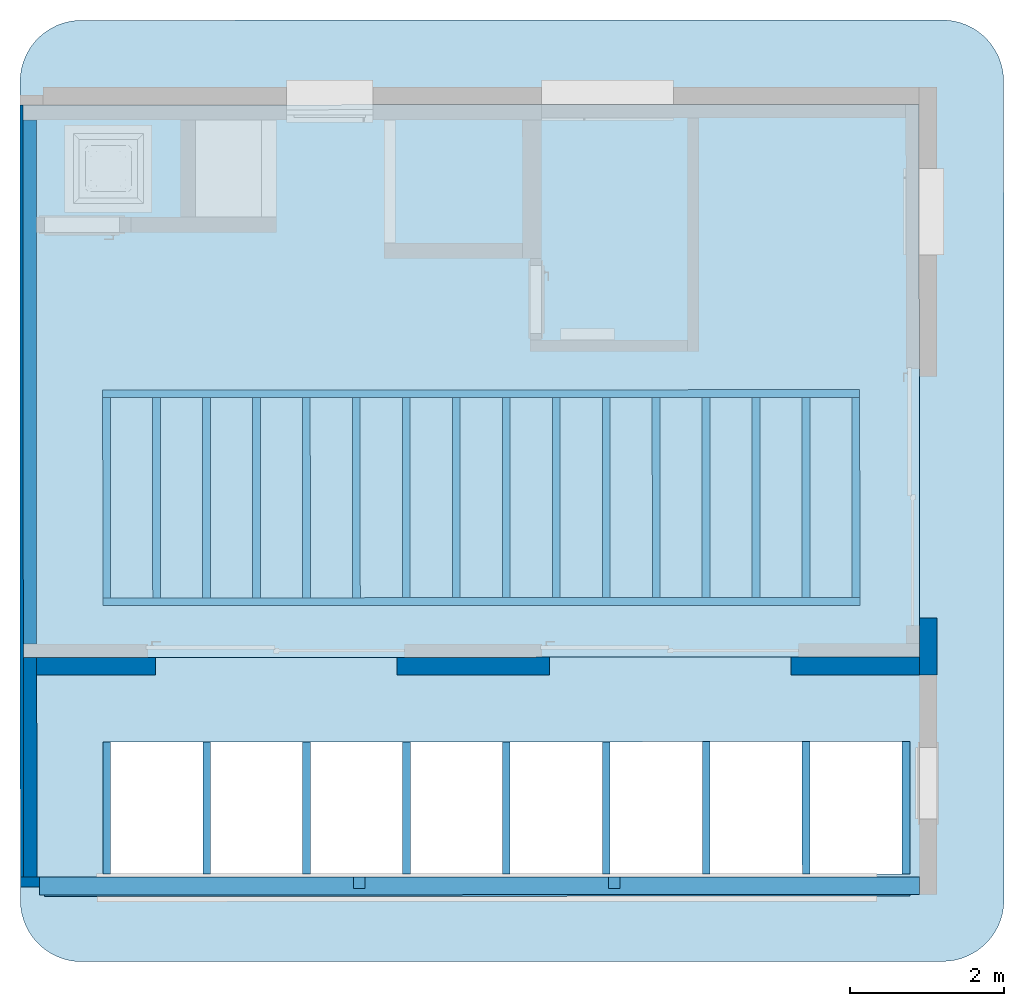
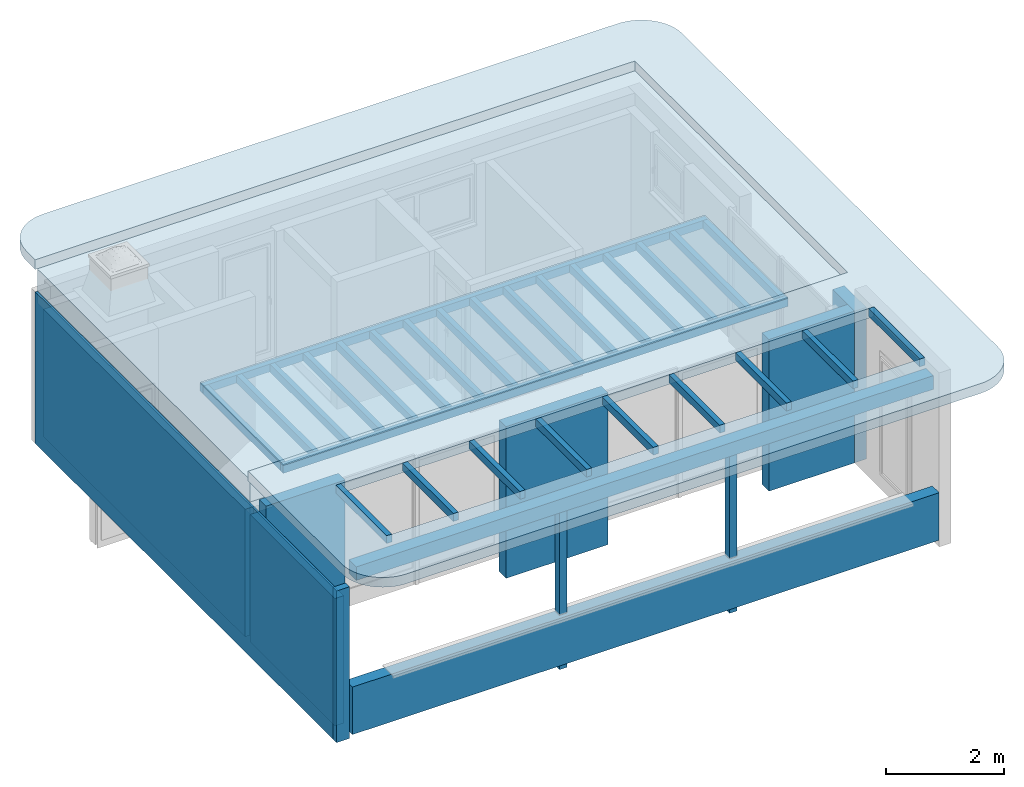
# One storey, part 1 of 7: 28 beams, 9 walls, 4 slabs, 2 piles, 2 openings.
"""IFC2X3 building model written with IfcOpenShell, lengths in metres."""

from ifc_helpers import new_model, entity, si_unit, converted_unit, derived_unit, direction, frame, frame_2d, origin, origin_with_axes, place, context, subcontext, project, spatial, polyline, rectangle, outline, extrude, faceted_brep, material, layer, layer_set, layer_usage, element, save


model = new_model("IFC2X3")

# Units and contexts
model_context = context("Model", 3, precision=1e-05, world=origin(), true_north=direction((0.772621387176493, -0.634867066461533)))
body_context = subcontext(model_context, "Body", "Model", "MODEL_VIEW")
ifc_project = project(units=[si_unit("LENGTHUNIT", "METRE"), si_unit("AREAUNIT", "SQUARE_METRE"), si_unit("VOLUMEUNIT", "CUBIC_METRE"), si_unit("MASSUNIT", "GRAM", prefix="KILO"), converted_unit("PLANEANGLEUNIT", "DEGREE", entity("IfcPlaneAngleMeasure", 0.0174532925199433), si_unit("PLANEANGLEUNIT", "RADIAN"), dimensions=[0, 0, 0, 0, 0, 0, 0]), derived_unit("THERMALTRANSMITTANCEUNIT", [(si_unit("POWERUNIT", "WATT"), 1), (si_unit("THERMODYNAMICTEMPERATUREUNIT", "KELVIN"), -1), (si_unit("LENGTHUNIT", "METRE"), -2)]), derived_unit("VOLUMETRICFLOWRATEUNIT", [(si_unit("LENGTHUNIT", "METRE"), 3), (converted_unit("TIMEUNIT", "hour", entity("IfcTimeMeasure", 3600.0), si_unit("TIMEUNIT", "SECOND"), dimensions=[0, 0, 1, 0, 0, 0, 0]), -1), (si_unit("LENGTHUNIT", "METRE"), -1)])], contexts=[model_context])

# Site, building, storey
site_placement = place(None, origin())
site = spatial("IfcSite", under=ifc_project, at=site_placement, Name="Modelle auf dem Nullpunkt", CompositionType="ELEMENT")
building_placement = place(site_placement, origin())
building = spatial("IfcBuilding", under=site, at=building_placement, Name="I", CompositionType="ELEMENT")
storey_placement = place(building_placement, origin())
storey = spatial("IfcBuildingStorey", under=building, at=storey_placement, Name="3.OG", CompositionType="ELEMENT", Elevation=0.0)

# Piles
ifc_material_1 = material(Name="Bois")
pile_1_placement = place(storey_placement, frame((33.6654999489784, -8.06186707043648, 444.35)))
element("IfcPile", 1, at=pile_1_placement, inside=storey, material=ifc_material_1, context=body_context, shape_type="Brep", body=[
    faceted_brep([(0.0, 0.149999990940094, 0.0), (5.30223846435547e-05, 0.0, 0.0), (0.1500530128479, 5.30228614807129e-05, 0.0), (0.149999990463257, 0.150053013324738, 0.0), (5.30223846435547e-05, 0.0, 3.31), (0.0, 0.149999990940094, 3.31), (0.149999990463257, 0.150053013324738, 3.31), (0.1500530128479, 5.30228614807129e-05, 3.31)], [[[0, 1, 2, 3]], [[4, 5, 6, 7]], [[1, 0, 5, 4]], [[2, 1, 4, 7]], [[3, 2, 7, 6]], [[0, 3, 6, 5]]], orient=[[False], [False], [False], [False], [False], [False]]),
])
ifc_material_2 = material(Name="Bois")
pile_2_placement = place(storey_placement, frame((36.9854997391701, -8.06069351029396, 444.35)))
element("IfcPile", 2, at=pile_2_placement, inside=storey, material=ifc_material_2, context=body_context, shape_type="Brep", body=[
    faceted_brep([(0.0, 0.149999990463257, 0.0), (5.30223846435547e-05, 0.0, 0.0), (0.150053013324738, 5.30223846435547e-05, 0.0), (0.149999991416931, 0.1500530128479, 0.0), (5.30223846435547e-05, 0.0, 3.31), (0.0, 0.149999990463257, 3.31), (0.149999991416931, 0.1500530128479, 3.31), (0.150053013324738, 5.30223846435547e-05, 3.31)], [[[0, 1, 2, 3]], [[4, 5, 6, 7]], [[1, 0, 5, 4]], [[2, 1, 4, 7]], [[3, 2, 7, 6]], [[0, 3, 6, 5]]], orient=[[False], [False], [False], [False], [False], [False]]),
])

# Beams
ifc_material_3 = material(Name="Bois")
beam_1_placement = place(storey_placement, frame((30.404878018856, -6.15301954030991, 447.98), z_axis=(0.0, 0.0, 1.0), x_axis=(0.000353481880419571, -0.999999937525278, 0.0)))
element("IfcBeam", 3, at=beam_1_placement, inside=storey, material=ifc_material_3, context=body_context, shape_type="SweptSolid", body=[
    extrude(rectangle(XDim=0.1, YDim=0.16, at=frame_2d((0.05, 0.08), x_axis=(1.0, 0.0))), frame((0.0, 0.0, 0.0), z_axis=(1.0, 0.0, 0.0), x_axis=(0.0, 1.0, 0.0)), (0.0, 0.0, 1.0), 1.72000000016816),
])
ifc_material_4 = material(Name="Bois")
beam_2_placement = place(storey_placement, frame((32.3532942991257, -1.67233053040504, 447.305), z_axis=(0.0, 0.0, 1.0), x_axis=(0.000353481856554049, -0.999999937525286, 0.0)))
element("IfcBeam", 4, at=beam_2_placement, inside=storey, material=ifc_material_4, context=body_context, shape_type="SweptSolid", body=[
    extrude(rectangle(XDim=0.0999999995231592, YDim=0.16, at=frame_2d((0.0499999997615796, 0.08), x_axis=(1.0, 0.0))), frame((0.0, 0.0, 0.0), z_axis=(1.0, 0.0, 0.0), x_axis=(0.0, 1.0, 0.0)), (0.0, 0.0, 1.0), 2.60499999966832),
])
ifc_material_5 = material(Name="Bois")
beam_3_placement = place(storey_placement, frame((35.6032940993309, -1.67118171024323, 447.305), z_axis=(0.0, 0.0, 1.0), x_axis=(0.000353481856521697, -0.999999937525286, 0.0)))
element("IfcBeam", 5, at=beam_3_placement, inside=storey, material=ifc_material_5, context=body_context, shape_type="SweptSolid", body=[
    extrude(rectangle(XDim=0.100000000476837, YDim=0.16, at=frame_2d((0.0500000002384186, 0.08), x_axis=(1.0, 0.0))), frame((0.0, 0.0, 0.0), z_axis=(1.0, 0.0, 0.0), x_axis=(0.0, 1.0, 0.0)), (0.0, 0.0, 1.0), 2.60499999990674),
])
ifc_material_6 = material(Name="Bois")
beam_4_placement = place(storey_placement, frame((40.8048773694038, -6.14934333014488, 447.98), z_axis=(0.0, 0.0, 1.0), x_axis=(0.0003534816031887, -0.999999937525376, 0.0)))
element("IfcBeam", 6, at=beam_4_placement, inside=storey, material=ifc_material_6, context=body_context, shape_type="SweptSolid", body=[
    extrude(rectangle(XDim=0.1, YDim=0.16, at=frame_2d((0.05, 0.08), x_axis=(1.0, 0.0))), frame((0.0, 0.0, 0.0), z_axis=(1.0, 0.0, 0.0), x_axis=(0.0, 1.0, 0.0)), (0.0, 0.0, 1.0), 1.72000000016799),
])
ifc_material_7 = material(Name="Bois")
beam_5_placement = place(storey_placement, frame((37.5532939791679, -1.67049242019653, 447.305), z_axis=(0.0, 0.0, 1.0), x_axis=(0.000353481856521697, -0.999999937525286, 0.0)))
element("IfcBeam", 7, at=beam_5_placement, inside=storey, material=ifc_material_7, context=body_context, shape_type="SweptSolid", body=[
    extrude(rectangle(XDim=0.100000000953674, YDim=0.16, at=frame_2d((0.0500000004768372, 0.08), x_axis=(1.0, 0.0))), frame((0.0, 0.0, 0.0), z_axis=(1.0, 0.0, 0.0), x_axis=(0.0, 1.0, 0.0)), (0.0, 0.0, 1.0), 2.60499999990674),
])
ifc_material_8 = material(Name="Bois")
beam_6_placement = place(storey_placement, frame((36.9048776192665, -6.15072191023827, 447.98), z_axis=(0.0, 0.0, 1.0), x_axis=(0.000353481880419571, -0.999999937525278, 0.0)))
element("IfcBeam", 8, at=beam_6_placement, inside=storey, material=ifc_material_8, context=body_context, shape_type="SweptSolid", body=[
    extrude(rectangle(XDim=0.10000000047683, YDim=0.16, at=frame_2d((0.0500000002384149, 0.08), x_axis=(1.0, 0.0))), frame((0.0, 0.0, 0.0), z_axis=(1.0, 0.0, 0.0), x_axis=(0.0, 1.0, 0.0)), (0.0, 0.0, 1.0), 1.72000000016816),
])
ifc_material_9 = material(Name="Bois")
beam_7_placement = place(storey_placement, frame((35.6048776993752, -6.15118143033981, 447.98), z_axis=(0.0, 0.0, 1.0), x_axis=(0.000353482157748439, -0.99999993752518, 0.0)))
element("IfcBeam", 9, at=beam_7_placement, inside=storey, material=ifc_material_9, context=body_context, shape_type="SweptSolid", body=[
    extrude(rectangle(XDim=0.0999999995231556, YDim=0.16, at=frame_2d((0.0499999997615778, 0.08), x_axis=(1.0, 0.0))), frame((0.0, 0.0, 0.0), z_axis=(1.0, 0.0, 0.0), x_axis=(0.0, 1.0, 0.0)), (0.0, 0.0, 1.0), 1.71999999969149),
])
ifc_material_10 = material(Name="Bois")
beam_8_placement = place(storey_placement, frame((39.5048774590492, -6.14980286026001, 447.98), z_axis=(0.0, 0.0, 1.0), x_axis=(0.0003534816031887, -0.999999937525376, 0.0)))
element("IfcBeam", 10, at=beam_8_placement, inside=storey, material=ifc_material_10, context=body_context, shape_type="SweptSolid", body=[
    extrude(rectangle(XDim=0.100000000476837, YDim=0.16, at=frame_2d((0.0500000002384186, 0.08), x_axis=(1.0, 0.0))), frame((0.0, 0.0, 0.0), z_axis=(1.0, 0.0, 0.0), x_axis=(0.0, 1.0, 0.0)), (0.0, 0.0, 1.0), 1.72000000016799),
])
ifc_material_11 = material(Name="Bois")
beam_9_placement = place(storey_placement, frame((38.8532938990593, -1.6700329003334, 447.305), z_axis=(0.0, 0.0, 1.0), x_axis=(0.000353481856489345, -0.999999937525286, 0.0)))
element("IfcBeam", 11, at=beam_9_placement, inside=storey, material=ifc_material_11, context=body_context, shape_type="SweptSolid", body=[
    extrude(rectangle(XDim=0.100000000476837, YDim=0.16, at=frame_2d((0.0500000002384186, 0.08), x_axis=(1.0, 0.0))), frame((0.0, 0.0, 0.0), z_axis=(1.0, 0.0, 0.0), x_axis=(0.0, 1.0, 0.0)), (0.0, 0.0, 1.0), 2.60500000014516),
])
ifc_material_12 = material(Name="Bois")
beam_10_placement = place(storey_placement, frame((38.2032939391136, -1.67026266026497, 447.305), z_axis=(0.0, 0.0, 1.0), x_axis=(0.000353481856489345, -0.999999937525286, 0.0)))
element("IfcBeam", 12, at=beam_10_placement, inside=storey, material=ifc_material_12, context=body_context, shape_type="SweptSolid", body=[
    extrude(rectangle(XDim=0.1, YDim=0.16, at=frame_2d((0.05, 0.08), x_axis=(1.0, 0.0))), frame((0.0, 0.0, 0.0), z_axis=(1.0, 0.0, 0.0), x_axis=(0.0, 1.0, 0.0)), (0.0, 0.0, 1.0), 2.60500000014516),
])
ifc_material_13 = material(Name="Bois")
beam_11_placement = place(storey_placement, frame((40.1532938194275, -1.66957337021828, 447.305), z_axis=(0.0, 0.0, 1.0), x_axis=(0.000353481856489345, -0.999999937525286, 0.0)))
element("IfcBeam", 13, at=beam_11_placement, inside=storey, material=ifc_material_13, context=body_context, shape_type="SweptSolid", body=[
    extrude(rectangle(XDim=0.0999999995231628, YDim=0.16, at=frame_2d((0.0499999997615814, 0.08), x_axis=(1.0, 0.0))), frame((0.0, 0.0, 0.0), z_axis=(1.0, 0.0, 0.0), x_axis=(0.0, 1.0, 0.0)), (0.0, 0.0, 1.0), 2.60500000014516),
])
ifc_material_14 = material(Name="Bois")
beam_12_placement = place(storey_placement, frame((36.2532940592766, -1.67095195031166, 447.305), z_axis=(0.0, 0.0, 1.0), x_axis=(0.000353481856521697, -0.999999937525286, 0.0)))
element("IfcBeam", 14, at=beam_12_placement, inside=storey, material=ifc_material_14, context=body_context, shape_type="SweptSolid", body=[
    extrude(rectangle(XDim=0.0999999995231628, YDim=0.16, at=frame_2d((0.0499999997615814, 0.08), x_axis=(1.0, 0.0))), frame((0.0, 0.0, 0.0), z_axis=(1.0, 0.0, 0.0), x_axis=(0.0, 1.0, 0.0)), (0.0, 0.0, 1.0), 2.60499999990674),
])
ifc_material_15 = material(Name="Bois")
beam_13_placement = place(storey_placement, frame((34.3032941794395, -1.67164124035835, 447.305), z_axis=(0.0, 0.0, 1.0), x_axis=(0.000353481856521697, -0.999999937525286, 0.0)))
element("IfcBeam", 15, at=beam_13_placement, inside=storey, material=ifc_material_15, context=body_context, shape_type="SweptSolid", body=[
    extrude(rectangle(XDim=0.0999999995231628, YDim=0.16, at=frame_2d((0.0499999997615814, 0.08), x_axis=(1.0, 0.0))), frame((0.0, 0.0, 0.0), z_axis=(1.0, 0.0, 0.0), x_axis=(0.0, 1.0, 0.0)), (0.0, 0.0, 1.0), 2.60499999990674),
])
ifc_material_16 = material(Name="Béton")
beam_14_placement = place(storey_placement, frame((40.9054994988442, -7.90930787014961, 447.66), z_axis=(0.0, 0.0, 1.0), x_axis=(-0.999999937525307, -0.000353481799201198, 0.0)))
element("IfcBeam", 16, at=beam_14_placement, inside=storey, material=ifc_material_16, context=body_context, shape_type="SweptSolid", body=[
    extrude(rectangle(XDim=0.249999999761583, YDim=0.28, at=frame_2d((0.124999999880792, 0.14), x_axis=(1.0, 0.0))), frame((0.0, 0.0, 0.0), z_axis=(1.0, 0.0, 0.0), x_axis=(0.0, 1.0, 0.0)), (0.0, 0.0, 1.0), 11.2600000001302),
])
ifc_material_17 = material(Name="Bois")
beam_15_placement = place(storey_placement, frame((40.2532584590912, -1.56953803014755, 447.305), z_axis=(0.0, 0.0, 1.0), x_axis=(-0.999999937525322, -0.000353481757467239, 0.0)))
element("IfcBeam", 17, at=beam_15_placement, inside=storey, material=ifc_material_17, context=body_context, shape_type="SweptSolid", body=[
    extrude(rectangle(XDim=0.0999999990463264, YDim=0.16, at=frame_2d((0.0499999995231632, 0.08), x_axis=(1.0, 0.0))), frame((0.0, 0.0, 0.0), z_axis=(1.0, 0.0, 0.0), x_axis=(0.0, 1.0, 0.0)), (0.0, 0.0, 1.0), 9.84999999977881),
])
ifc_material_18 = material(Name="Bois")
beam_16_placement = place(storey_placement, frame((34.304877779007, -6.15164096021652, 447.98), z_axis=(0.0, 0.0, 1.0), x_axis=(0.000353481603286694, -0.999999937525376, 0.0)))
element("IfcBeam", 18, at=beam_16_placement, inside=storey, material=ifc_material_18, context=body_context, shape_type="SweptSolid", body=[
    extrude(rectangle(XDim=0.1, YDim=0.16, at=frame_2d((0.05, 0.08), x_axis=(1.0, 0.0))), frame((0.0, 0.0, 0.0), z_axis=(1.0, 0.0, 0.0), x_axis=(0.0, 1.0, 0.0)), (0.0, 0.0, 1.0), 1.71999999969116),
])
ifc_material_19 = material(Name="Bois")
beam_17_placement = place(storey_placement, frame((38.2048775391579, -6.15026238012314, 447.98), z_axis=(0.0, 0.0, 1.0), x_axis=(0.000353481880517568, -0.999999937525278, 0.0)))
element("IfcBeam", 19, at=beam_17_placement, inside=storey, material=ifc_material_19, context=body_context, shape_type="SweptSolid", body=[
    extrude(rectangle(XDim=0.100000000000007, YDim=0.16, at=frame_2d((0.0500000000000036, 0.08), x_axis=(1.0, 0.0))), frame((0.0, 0.0, 0.0), z_axis=(1.0, 0.0, 0.0), x_axis=(0.0, 1.0, 0.0)), (0.0, 0.0, 1.0), 1.71999999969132),
])
ifc_material_20 = material(Name="Bois")
beam_18_placement = place(storey_placement, frame((33.0048778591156, -6.15210049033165, 447.98), z_axis=(0.0, 0.0, 1.0), x_axis=(0.0003534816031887, -0.999999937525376, 0.0)))
element("IfcBeam", 20, at=beam_18_placement, inside=storey, material=ifc_material_20, context=body_context, shape_type="SweptSolid", body=[
    extrude(rectangle(XDim=0.1, YDim=0.16, at=frame_2d((0.05, 0.08), x_axis=(1.0, 0.0))), frame((0.0, 0.0, 0.0), z_axis=(1.0, 0.0, 0.0), x_axis=(0.0, 1.0, 0.0)), (0.0, 0.0, 1.0), 1.72000000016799),
])
ifc_material_21 = material(Name="Bois")
beam_19_placement = place(storey_placement, frame((31.0532943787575, -1.67279006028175, 447.305), z_axis=(0.0, 0.0, 1.0), x_axis=(0.000353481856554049, -0.999999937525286, 0.0)))
element("IfcBeam", 21, at=beam_19_placement, inside=storey, material=ifc_material_21, context=body_context, shape_type="SweptSolid", body=[
    extrude(rectangle(XDim=0.100000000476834, YDim=0.16, at=frame_2d((0.0500000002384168, 0.08), x_axis=(1.0, 0.0))), frame((0.0, 0.0, 0.0), z_axis=(1.0, 0.0, 0.0), x_axis=(0.0, 1.0, 0.0)), (0.0, 0.0, 1.0), 2.60499999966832),
])
ifc_material_22 = material(Name="Bois")
beam_20_placement = place(storey_placement, frame((33.0032942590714, -1.67210077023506, 447.305), z_axis=(0.0, 0.0, 1.0), x_axis=(0.000353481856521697, -0.999999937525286, 0.0)))
element("IfcBeam", 22, at=beam_20_placement, inside=storey, material=ifc_material_22, context=body_context, shape_type="SweptSolid", body=[
    extrude(rectangle(XDim=0.0999999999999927, YDim=0.16, at=frame_2d((0.0499999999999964, 0.08), x_axis=(1.0, 0.0))), frame((0.0, 0.0, 0.0), z_axis=(1.0, 0.0, 0.0), x_axis=(0.0, 1.0, 0.0)), (0.0, 0.0, 1.0), 2.60499999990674),
])
ifc_material_23 = material(Name="Bois")
beam_21_placement = place(storey_placement, frame((31.7048779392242, -6.15256001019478, 447.98), z_axis=(0.0, 0.0, 1.0), x_axis=(0.000353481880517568, -0.999999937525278, 0.0)))
element("IfcBeam", 23, at=beam_21_placement, inside=storey, material=ifc_material_23, context=body_context, shape_type="SweptSolid", body=[
    extrude(rectangle(XDim=0.1, YDim=0.16, at=frame_2d((0.05, 0.08), x_axis=(1.0, 0.0))), frame((0.0, 0.0, 0.0), z_axis=(1.0, 0.0, 0.0), x_axis=(0.0, 1.0, 0.0)), (0.0, 0.0, 1.0), 1.71999999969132),
])
ifc_material_24 = material(Name="Bois")
beam_22_placement = place(storey_placement, frame((34.9532941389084, -1.67141148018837, 447.305), z_axis=(0.0, 0.0, 1.0), x_axis=(0.000353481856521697, -0.999999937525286, 0.0)))
element("IfcBeam", 24, at=beam_22_placement, inside=storey, material=ifc_material_24, context=body_context, shape_type="SweptSolid", body=[
    extrude(rectangle(XDim=0.0999999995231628, YDim=0.16, at=frame_2d((0.0499999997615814, 0.08), x_axis=(1.0, 0.0))), frame((0.0, 0.0, 0.0), z_axis=(1.0, 0.0, 0.0), x_axis=(0.0, 1.0, 0.0)), (0.0, 0.0, 1.0), 2.60499999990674),
])
ifc_material_25 = material(Name="Bois")
beam_23_placement = place(storey_placement, frame((36.9032940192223, -1.67072219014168, 447.305), z_axis=(0.0, 0.0, 1.0), x_axis=(0.000353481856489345, -0.999999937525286, 0.0)))
element("IfcBeam", 25, at=beam_23_placement, inside=storey, material=ifc_material_25, context=body_context, shape_type="SweptSolid", body=[
    extrude(rectangle(XDim=0.0999999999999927, YDim=0.16, at=frame_2d((0.0499999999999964, 0.08), x_axis=(1.0, 0.0))), frame((0.0, 0.0, 0.0), z_axis=(1.0, 0.0, 0.0), x_axis=(0.0, 1.0, 0.0)), (0.0, 0.0, 1.0), 2.60500000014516),
])
ifc_material_26 = material(Name="Bois")
beam_24_placement = place(storey_placement, frame((39.503293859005, -1.66980314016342, 447.305), z_axis=(0.0, 0.0, 1.0), x_axis=(0.000353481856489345, -0.999999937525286, 0.0)))
element("IfcBeam", 26, at=beam_24_placement, inside=storey, material=ifc_material_26, context=body_context, shape_type="SweptSolid", body=[
    extrude(rectangle(XDim=0.1, YDim=0.16, at=frame_2d((0.05, 0.08), x_axis=(1.0, 0.0))), frame((0.0, 0.0, 0.0), z_axis=(1.0, 0.0, 0.0), x_axis=(0.0, 1.0, 0.0)), (0.0, 0.0, 1.0), 2.60500000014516),
])
ifc_material_27 = material(Name="Bois")
beam_25_placement = place(storey_placement, frame((30.4042505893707, -4.37801965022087, 447.305), z_axis=(0.0, 0.0, 1.0), x_axis=(0.999999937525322, 0.000353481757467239, 0.0)))
element("IfcBeam", 27, at=beam_25_placement, inside=storey, material=ifc_material_27, context=body_context, shape_type="SweptSolid", body=[
    extrude(rectangle(XDim=0.100000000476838, YDim=0.16, at=frame_2d((0.050000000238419, 0.08), x_axis=(1.0, 0.0))), frame((0.0, 0.0, 0.0), z_axis=(1.0, 0.0, 0.0), x_axis=(0.0, 1.0, 0.0)), (0.0, 0.0, 1.0), 9.84999999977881),
])
ifc_material_28 = material(Name="Bois")
beam_26_placement = place(storey_placement, frame((30.4032944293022, -1.67301982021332, 447.305), z_axis=(0.0, 0.0, 1.0), x_axis=(0.000353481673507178, -0.999999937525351, 0.0)))
element("IfcBeam", 28, at=beam_26_placement, inside=storey, material=ifc_material_28, context=body_context, shape_type="SweptSolid", body=[
    extrude(rectangle(XDim=0.0999999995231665, YDim=0.16, at=frame_2d((0.0499999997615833, 0.08), x_axis=(1.0, 0.0))), frame((0.0, 0.0, 0.0), z_axis=(1.0, 0.0, 0.0), x_axis=(0.0, 1.0, 0.0)), (0.0, 0.0, 1.0), 2.60499999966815),
])
ifc_material_29 = material(Name="Bois")
beam_27_placement = place(storey_placement, frame((31.70329433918, -1.67256029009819, 447.305), z_axis=(0.0, 0.0, 1.0), x_axis=(0.000353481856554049, -0.999999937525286, 0.0)))
element("IfcBeam", 29, at=beam_27_placement, inside=storey, material=ifc_material_29, context=body_context, shape_type="SweptSolid", body=[
    extrude(rectangle(XDim=0.1, YDim=0.16, at=frame_2d((0.05, 0.08), x_axis=(1.0, 0.0))), frame((0.0, 0.0, 0.0), z_axis=(1.0, 0.0, 0.0), x_axis=(0.0, 1.0, 0.0)), (0.0, 0.0, 1.0), 2.60499999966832),
])
ifc_material_30 = material(Name="Bois")
beam_28_placement = place(storey_placement, frame((33.6532942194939, -1.6718710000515, 447.305), z_axis=(0.0, 0.0, 1.0), x_axis=(0.000353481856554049, -0.999999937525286, 0.0)))
element("IfcBeam", 30, at=beam_28_placement, inside=storey, material=ifc_material_30, context=body_context, shape_type="SweptSolid", body=[
    extrude(rectangle(XDim=0.0999999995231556, YDim=0.16, at=frame_2d((0.0499999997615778, 0.08), x_axis=(1.0, 0.0))), frame((0.0, 0.0, 0.0), z_axis=(1.0, 0.0, 0.0), x_axis=(0.0, 1.0, 0.0)), (0.0, 0.0, 1.0), 2.60499999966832),
])

# Slab
ifc_material_31 = material(Name="Béton")
slab_1_placement = place(storey_placement, frame((30.4032590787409, -4.37801964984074, 447.465)))
element("IfcSlab", 31, at=slab_1_placement, inside=storey, material=ifc_material_31, PredefinedType="FLOOR", context=body_context, shape_type="SweptSolid", body=[
    extrude(rectangle(XDim=2.80500000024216, YDim=9.84999999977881, at=frame_2d((4.92549545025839, -1.40075901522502), x_axis=(0.000353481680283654, -0.999999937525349))), frame((0.0, 2.80499982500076, 0.0), z_axis=(0.0, 0.0, 1.0), x_axis=(1.0, 0.0, 0.0)), (0.0, 0.0, 1.0), 0.025),
])

# Slab, openings
ifc_material_32 = material(Name="Béton")
slab_2_placement = place(storey_placement, frame((29.3669477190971, -5.05338546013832, 447.23)))
slab_2 = element("IfcSlab", 32, at=slab_2_placement, inside=storey, material=ifc_material_32, PredefinedType="FLOOR", context=body_context, shape_type="SweptSolid", body=[
    extrude(outline(polyline([(11.6599992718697, 7.19412114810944), (0.0, 7.1899995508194), (0.00254153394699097, 0.0), (11.6625408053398, 0.00412159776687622), (11.6599992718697, 7.19412114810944)]), holes=[polyline([(1.03730286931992, 0.675365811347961), (1.03631135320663, 3.48036563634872), (10.8863107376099, 3.4838474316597), (10.8873022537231, 0.678847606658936), (1.03730286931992, 0.675365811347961)])]), origin_with_axes(), (0.0, 0.0, 1.0), 0.26),
])
opening_1_placement = place(slab_2_placement, frame((0.710151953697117, 5.96025059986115, 0.0)))
element("IfcOpeningElement", 33, at=opening_1_placement, cuts=slab_2, Name="Deckendurchbruch", ObjectType="Opening", context=body_context, shape_type="SweptSolid", body=[
    extrude(rectangle(XDim=0.799999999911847, YDim=0.799999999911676, at=frame_2d((0.0, 0.0), x_axis=(-0.999999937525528, -0.00035348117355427))), frame((0.400141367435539, 0.400141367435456, 0.0), z_axis=(0.0, 0.0, 1.0), x_axis=(1.0, 0.0, 0.0)), (0.0, 0.0, 1.0), 0.26),
])
opening_2_placement = place(slab_2_placement, frame((0.710151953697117, 5.96025059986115, 0.71)))
element("IfcOpeningElement", 34, at=opening_2_placement, cuts=slab_2, Name="Deckendurchbruch", ObjectType="Opening", context=body_context, shape_type="SweptSolid", body=[
    extrude(rectangle(XDim=0.799999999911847, YDim=0.799999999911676, at=frame_2d((0.0, 0.0), x_axis=(-0.999999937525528, -0.00035348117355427))), frame((0.400141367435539, 0.400141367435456, 0.0), z_axis=(0.0, 0.0, 1.0), x_axis=(1.0, 0.0, 0.0)), (0.0, 0.0, 1.0), 0.2),
])

# Slabs
ifc_material_33 = material(Name="Béton")
slab_3_placement = place(storey_placement, frame((29.3669477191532, -5.05338546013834, 447.49)))
element("IfcSlab", 35, at=slab_3_placement, inside=storey, material=ifc_material_33, PredefinedType="FLOOR", context=body_context, shape_type="Brep", body=[
    faceted_brep([(11.6599992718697, 7.19412114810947, 0.0), (11.6625408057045, 0.00412159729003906, 0.0), (11.6625408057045, 0.00412159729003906, 0.45), (11.6599992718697, 7.19412114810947, 0.45), (0.00254153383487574, 0.0, 0.0), (0.00254153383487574, 0.0, 0.45), (0.0, 7.18999955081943, 0.0), (0.0, 7.18999955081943, 0.45)], [[[0, 1, 2, 3]], [[1, 4, 5, 2]], [[4, 6, 7, 5]], [[6, 0, 3, 7]], [[3, 2, 5, 7]], [[0, 6, 4, 1]]], orient=[[False], [False], [False], [False], [False], [False]]),
])
ifc_material_34 = material(Name="Béton")
slab_4_placement = place(storey_placement, frame((29.3268416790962, -9.0131165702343, 447.94)))
element("IfcSlab", 36, at=slab_4_placement, inside=storey, material=ifc_material_34, PredefinedType="FLOOR", context=body_context, shape_type="SweptSolid", body=[
    extrude(outline(polyline([(0.00264757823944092, 3.9597169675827), (0.00376458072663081, 0.799717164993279), (0.00817662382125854, 0.716095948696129), (0.0213052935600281, 0.63339400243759), (0.0430067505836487, 0.552517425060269), (0.0730432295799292, 0.474352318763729), (0.111085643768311, 0.39975507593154), (0.156717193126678, 0.32954299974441), (0.209437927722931, 0.264485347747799), (0.268670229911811, 0.205294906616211), (0.33376513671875, 0.152620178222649), (0.40400945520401, 0.10703827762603), (0.478633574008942, 0.0690486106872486), (0.556819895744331, 0.0390673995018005), (0.637711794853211, 0.0174231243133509), (0.720423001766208, 0.00435292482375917), (0.804047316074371, 0.0), (12.0040466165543, 0.00395899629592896), (12.0876678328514, 0.00837103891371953), (12.17036977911, 0.0214997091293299), (12.2512463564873, 0.0432011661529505), (12.3294114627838, 0.073237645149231), (12.404008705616, 0.111280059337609), (12.4742207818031, 0.156911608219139), (12.5392784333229, 0.209632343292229), (12.5984688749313, 0.268864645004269), (12.6511436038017, 0.333959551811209), (12.6967255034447, 0.404203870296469), (12.7347151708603, 0.47882798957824), (12.7646963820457, 0.557014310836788), (12.7863406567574, 0.63790620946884), (12.7994108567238, 0.72061741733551), (12.8037637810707, 0.80424173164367), (12.7999992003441, 11.454241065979), (12.7955871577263, 11.537862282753), (12.7824584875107, 11.6205642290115), (12.7607570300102, 11.701440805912), (12.7307205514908, 11.7796059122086), (12.6926781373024, 11.8542031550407), (12.647046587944, 11.9244152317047), (12.5943258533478, 11.9894728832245), (12.5350935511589, 12.0486633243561), (12.469998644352, 12.1013380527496), (12.3997543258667, 12.1469199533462), (12.3251302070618, 12.184909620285), (12.2469438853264, 12.2148908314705), (12.1660519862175, 12.2365351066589), (12.0833407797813, 12.2496053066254), (11.9997164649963, 12.2539582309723), (0.799717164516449, 12.2499992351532), (0.71609594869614, 12.2455871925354), (0.633394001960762, 12.2324585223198), (0.552517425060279, 12.2107570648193), (0.47435231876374, 12.1807205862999), (0.399755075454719, 12.1426781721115), (0.329542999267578, 12.09704662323), (0.26448534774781, 12.0443258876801), (0.205294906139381, 11.985093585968), (0.152620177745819, 11.9199986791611), (0.107038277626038, 11.8497543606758), (0.0690486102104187, 11.7751302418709), (0.0390673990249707, 11.6969439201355), (0.017423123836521, 11.6160520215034), (0.0043529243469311, 11.5333408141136), (0.0, 11.4497164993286), (0.000106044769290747, 11.1497165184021), (11.7001053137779, 11.1538522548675), (11.7026468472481, 3.96385270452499), (0.00264757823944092, 3.9597169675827)]), holes=[polyline([(1.07803634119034, 2.86009702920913), (11.5780356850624, 2.86380858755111), (11.5786436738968, 1.14380869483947), (1.07864433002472, 1.14009713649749), (1.07803634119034, 2.86009702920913)])]), origin_with_axes(), (0.0, 0.0, 1.0), 0.2),
])

# Walls
ifc_material_35 = material(Name="Isolation périphérique")
ifc_layer_1 = layer(ifc_material_35, 0.23000000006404)
ifc_layer_set_1 = layer_set([ifc_layer_1])
ifc_layer_usage_1 = layer_usage(ifc_layer_set_1, "AXIS2", "POSITIVE", 0.0)
wall_1_placement = place(storey_placement, frame((41.2595698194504, -5.27918255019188, 444.35), z_axis=(0.0, 0.0, 1.0), x_axis=(-0.000353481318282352, 0.999999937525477, 0.0)))
element("IfcWallStandardCase", 37, at=wall_1_placement, inside=storey, material=ifc_layer_usage_1, context=body_context, shape_type="SweptSolid", body=[
    extrude(rectangle(XDim=0.740000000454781, YDim=0.23000000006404, at=frame_2d((0.37000000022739, 0.11500000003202), x_axis=(1.0, 0.0))), origin_with_axes(), (0.0, 0.0, 1.0), 3.13),
])
ifc_material_36 = material(Name="Isolation périphérique")
ifc_layer_2 = layer(ifc_material_36, 0.2299999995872)
ifc_layer_set_2 = layer_set([ifc_layer_2])
ifc_layer_usage_2 = layer_usage(ifc_layer_set_2, "AXIS2", "POSITIVE", 0.0)
wall_2_placement = place(storey_placement, frame((41.0294885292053, -5.04926386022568, 444.35), z_axis=(0.0, 0.0, 1.0), x_axis=(-0.999999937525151, -0.00035348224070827, 0.0)))
element("IfcWallStandardCase", 38, at=wall_2_placement, inside=storey, material=ifc_layer_usage_2, context=body_context, shape_type="SweptSolid", body=[
    extrude(rectangle(XDim=1.66999999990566, YDim=0.2299999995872, at=frame_2d((0.83499999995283, 0.1149999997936), x_axis=(1.0, 0.0))), origin_with_axes(), (0.0, 0.0, 1.0), 3.13),
])
ifc_material_37 = material(Name="Isolation périphérique")
ifc_layer_3 = layer(ifc_material_37, 0.230000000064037)
ifc_layer_set_3 = layer_set([ifc_layer_3])
ifc_layer_usage_3 = layer_usage(ifc_layer_set_3, "AXIS2", "POSITIVE", 0.0)
wall_3_placement = place(storey_placement, frame((31.0894891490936, -5.05277747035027, 444.35), z_axis=(0.0, 0.0, 1.0), x_axis=(-0.999999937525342, -0.000353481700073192, 0.0)))
element("IfcWallStandardCase", 39, at=wall_3_placement, inside=storey, material=ifc_layer_usage_3, context=body_context, shape_type="SweptSolid", body=[
    extrude(rectangle(XDim=1.54500000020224, YDim=0.230000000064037, at=frame_2d((0.77250000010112, 0.115000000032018), x_axis=(1.0, 0.0))), origin_with_axes(), (0.0, 0.0, 1.0), 3.13),
])
ifc_material_38 = material(Name="Isolation périphérique")
ifc_layer_4 = layer(ifc_material_38, 0.230000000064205)
ifc_layer_set_4 = layer_set([ifc_layer_4])
ifc_layer_usage_4 = layer_usage(ifc_layer_set_4, "AXIS2", "POSITIVE", -2.06719527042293e-16)
wall_4_placement = place(storey_placement, frame((36.2194888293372, -5.05096411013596, 444.35), z_axis=(0.0, 0.0, 1.0), x_axis=(-0.999999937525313, -0.000353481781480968, 0.0)))
element("IfcWallStandardCase", 40, at=wall_4_placement, inside=storey, material=ifc_layer_usage_4, context=body_context, shape_type="SweptSolid", body=[
    extrude(rectangle(XDim=1.99000000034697, YDim=0.230000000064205, at=frame_2d((0.995000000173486, 0.115000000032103), x_axis=(1.0, 0.0))), origin_with_axes(), (0.0, 0.0, 1.0), 3.13),
])
ifc_material_39 = material(Name="Isolation périphérique")
ifc_layer_5 = layer(ifc_material_39, 0.230000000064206)
ifc_layer_set_5 = layer_set([ifc_layer_5])
ifc_layer_usage_5 = layer_usage(ifc_layer_set_5, "AXIS2", "POSITIVE", -4.53930228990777e-16)
wall_5_placement = place(storey_placement, frame((41.0304994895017, -7.90926369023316, 444.49), z_axis=(0.0, 0.0, 1.0), x_axis=(-0.999999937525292, -0.000353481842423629, 0.0)))
element("IfcWallStandardCase", 41, at=wall_5_placement, inside=storey, material=ifc_layer_usage_5, context=body_context, shape_type="SweptSolid", body=[
    extrude(rectangle(XDim=11.4500000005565, YDim=0.230000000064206, at=frame_2d((5.72500000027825, 0.115000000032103), x_axis=(1.0, 0.0))), origin_with_axes(), (0.0, 0.0, 1.0), 0.98),
])
ifc_material_40 = material(Name="Isolation périphérique")
ifc_layer_6 = layer(ifc_material_40, 0.0399999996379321)
ifc_layer_set_6 = layer_set([ifc_layer_6])
ifc_layer_usage_6 = layer_usage(ifc_layer_set_6, "AXIS2", "POSITIVE", -3.61374635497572e-17)
wall_6_placement = place(storey_placement, frame((29.3705002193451, -7.91338528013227, 444.35), z_axis=(0.0, 0.0, 1.0), x_axis=(-0.000353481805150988, 0.999999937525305, 0.0)))
element("IfcWallStandardCase", 42, at=wall_6_placement, inside=storey, material=ifc_layer_usage_6, context=body_context, shape_type="SweptSolid", body=[
    extrude(rectangle(XDim=10.0499999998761, YDim=0.0399999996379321, at=frame_2d((5.02499999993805, 0.019999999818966), x_axis=(1.0, 0.0))), origin_with_axes(), (0.0, 0.0, 1.0), 3.13),
])
ifc_material_41 = material(Name="Brique")
ifc_layer_7 = layer(ifc_material_41, 0.174999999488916)
ifc_layer_set_7 = layer_set([ifc_layer_7])
ifc_layer_usage_7 = layer_usage(ifc_layer_set_7, "AXIS2", "POSITIVE", -1.6201623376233e-16)
wall_7_placement = place(storey_placement, frame((29.369489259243, -5.05338546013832, 444.6), z_axis=(0.0, 0.0, 1.0), x_axis=(0.000353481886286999, -0.999999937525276, 0.0)))
element("IfcWallStandardCase", 43, at=wall_7_placement, inside=storey, material=ifc_layer_usage_7, context=body_context, shape_type="SweptSolid", body=[
    extrude(rectangle(XDim=2.85999999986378, YDim=0.174999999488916, at=frame_2d((1.42999999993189, 0.0874999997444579), x_axis=(1.0, 0.0))), origin_with_axes(), (0.0, 0.0, 1.0), 2.63),
])
ifc_material_42 = material(Name="Isolation périphérique")
ifc_layer_8 = layer(ifc_material_42, 0.129999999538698)
ifc_layer_set_8 = layer_set([ifc_layer_8])
ifc_layer_usage_8 = layer_usage(ifc_layer_set_8, "AXIS2", "POSITIVE", -1.80837767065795e-19)
wall_8_placement = place(storey_placement, frame((29.5805001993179, -7.91331105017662, 444.35), z_axis=(0.0, 0.0, 1.0), x_axis=(-0.999999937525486, -0.000353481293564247, 0.0)))
element("IfcWallStandardCase", 44, at=wall_8_placement, inside=storey, material=ifc_layer_usage_8, context=body_context, shape_type="SweptSolid", body=[
    extrude(rectangle(XDim=0.249999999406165, YDim=0.129999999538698, at=frame_2d((0.124999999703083, 0.064999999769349), x_axis=(1.0, 0.0))), origin_with_axes(), (0.0, 0.0, 1.0), 3.13),
])
ifc_material_43 = material(Name="Brique")
ifc_layer_9 = layer(ifc_material_43, 0.174999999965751)
ifc_layer_set_9 = layer_set([ifc_layer_9])
ifc_layer_usage_9 = layer_usage(ifc_layer_set_9, "AXIS2", "POSITIVE", -1.78328737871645e-16)
wall_9_placement = place(storey_placement, frame((29.3670184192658, 1.93661409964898, 444.6), z_axis=(0.0, 0.0, 1.0), x_axis=(0.000353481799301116, -0.999999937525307, 0.0)))
element("IfcWallStandardCase", 45, at=wall_9_placement, inside=storey, material=ifc_layer_usage_9, context=body_context, shape_type="SweptSolid", body=[
    extrude(rectangle(XDim=6.81499999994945, YDim=0.174999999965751, at=frame_2d((3.40749999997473, 0.0874999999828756), x_axis=(1.0, 0.0))), origin_with_axes(), (0.0, 0.0, 1.0), 2.63),
])

save(model, "model.ifc")
